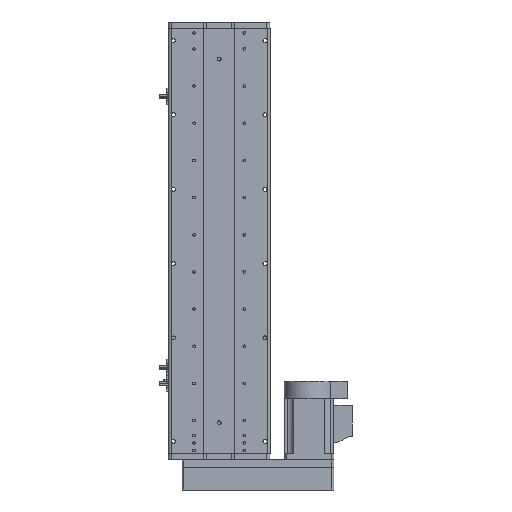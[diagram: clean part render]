
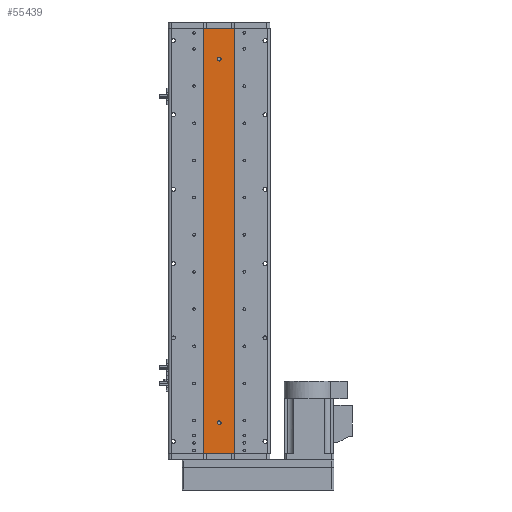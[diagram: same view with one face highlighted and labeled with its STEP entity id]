
A CAD part, front view. The second image highlights one B-rep face of the part: STEP entity #55439.
In plain terms, the highlighted planar face has unit normal (0, -1, 0).
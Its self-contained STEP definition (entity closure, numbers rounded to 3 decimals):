
#672 = LINE ( 'NONE', #52717, #35709 ) ;
#677 = EDGE_CURVE ( 'NONE', #53809, #31405, #54581, .T. ) ;
#2646 = DIRECTION ( 'NONE',  ( 0., 0., -1. ) ) ;
#2668 = ORIENTED_EDGE ( 'NONE', *, *, #677, .T. ) ;
#6071 = AXIS2_PLACEMENT_3D ( 'NONE', #16847, #48695, #21462 ) ;
#6673 = CARTESIAN_POINT ( 'NONE',  ( 0., 1., 296.5 ) ) ;
#6714 = CARTESIAN_POINT ( 'NONE',  ( 0., 1., 293.5 ) ) ;
#7720 = DIRECTION ( 'NONE',  ( 0., 0., -1. ) ) ;
#8252 = CARTESIAN_POINT ( 'NONE',  ( 0., 1., -293.5 ) ) ;
#9055 = EDGE_LOOP ( 'NONE', ( #40867, #16195 ) ) ;
#9064 = CARTESIAN_POINT ( 'NONE',  ( -25., 1., 343.5 ) ) ;
#9344 = EDGE_CURVE ( 'NONE', #16473, #53809, #672, .T. ) ;
#10515 = CARTESIAN_POINT ( 'NONE',  ( 25., 1., 343.5 ) ) ;
#10939 = CARTESIAN_POINT ( 'NONE',  ( 25., 1., -343.5 ) ) ;
#11179 = ORIENTED_EDGE ( 'NONE', *, *, #37240, .F. ) ;
#11285 = DIRECTION ( 'NONE',  ( 0., 0., -1. ) ) ;
#11422 = EDGE_CURVE ( 'NONE', #16473, #32055, #26226, .T. ) ;
#12256 = PLANE ( 'NONE',  #6071 ) ;
#12545 = CIRCLE ( 'NONE', #22142, 3. ) ;
#12674 = VECTOR ( 'NONE', #15127, 1000. ) ;
#12843 = DIRECTION ( 'NONE',  ( 0., 0., -1. ) ) ;
#12874 = CARTESIAN_POINT ( 'NONE',  ( 0., 1., -290.5 ) ) ;
#13016 = CARTESIAN_POINT ( 'NONE',  ( -25., 1., -343.5 ) ) ;
#14371 = ORIENTED_EDGE ( 'NONE', *, *, #44771, .F. ) ;
#15127 = DIRECTION ( 'NONE',  ( 1., 0., 0. ) ) ;
#15579 = CARTESIAN_POINT ( 'NONE',  ( 0., 1., 293.5 ) ) ;
#16195 = ORIENTED_EDGE ( 'NONE', *, *, #27050, .F. ) ;
#16473 = VERTEX_POINT ( 'NONE', #9064 ) ;
#16741 = DIRECTION ( 'NONE',  ( 0., -1., 0. ) ) ;
#16847 = CARTESIAN_POINT ( 'NONE',  ( 25., 1., 343.5 ) ) ;
#18208 = CARTESIAN_POINT ( 'NONE',  ( 0., 1., 290.5 ) ) ;
#19336 = EDGE_LOOP ( 'NONE', ( #14371, #29644 ) ) ;
#20194 = DIRECTION ( 'NONE',  ( 0., 0., -1. ) ) ;
#21039 = FACE_BOUND ( 'NONE', #19336, .T. ) ;
#21462 = DIRECTION ( 'NONE',  ( 0., 0., 1. ) ) ;
#21702 = CARTESIAN_POINT ( 'NONE',  ( 25., 1., 343.5 ) ) ;
#22142 = AXIS2_PLACEMENT_3D ( 'NONE', #15579, #47431, #20194 ) ;
#22249 = CARTESIAN_POINT ( 'NONE',  ( 25., 1., 343.5 ) ) ;
#22655 = EDGE_LOOP ( 'NONE', ( #2668, #11179, #56310, #52464 ) ) ;
#24651 = VERTEX_POINT ( 'NONE', #53731 ) ;
#25598 = AXIS2_PLACEMENT_3D ( 'NONE', #44012, #16741, #48579 ) ;
#26226 = LINE ( 'NONE', #10515, #12674 ) ;
#27050 = EDGE_CURVE ( 'NONE', #48070, #24651, #46078, .T. ) ;
#28393 = CIRCLE ( 'NONE', #53643, 3. ) ;
#28501 = VECTOR ( 'NONE', #7720, 1000. ) ;
#29644 = ORIENTED_EDGE ( 'NONE', *, *, #54146, .F. ) ;
#31405 = VERTEX_POINT ( 'NONE', #10939 ) ;
#32055 = VERTEX_POINT ( 'NONE', #22249 ) ;
#32946 = EDGE_CURVE ( 'NONE', #24651, #48070, #33174, .T. ) ;
#33099 = FACE_BOUND ( 'NONE', #9055, .T. ) ;
#33174 = CIRCLE ( 'NONE', #25598, 3. ) ;
#35709 = VECTOR ( 'NONE', #2646, 1000. ) ;
#36623 = CARTESIAN_POINT ( 'NONE',  ( 25., 1., -343.5 ) ) ;
#37240 = EDGE_CURVE ( 'NONE', #32055, #31405, #40627, .T. ) ;
#37597 = VERTEX_POINT ( 'NONE', #6673 ) ;
#38569 = DIRECTION ( 'NONE',  ( 0., -1., 0. ) ) ;
#40120 = DIRECTION ( 'NONE',  ( 0., -1., 0. ) ) ;
#40627 = LINE ( 'NONE', #21702, #28501 ) ;
#40867 = ORIENTED_EDGE ( 'NONE', *, *, #32946, .F. ) ;
#41218 = DIRECTION ( 'NONE',  ( 1., 0., 0. ) ) ;
#42530 = VECTOR ( 'NONE', #41218, 1000. ) ;
#44012 = CARTESIAN_POINT ( 'NONE',  ( 0., 1., -293.5 ) ) ;
#44028 = AXIS2_PLACEMENT_3D ( 'NONE', #8252, #40120, #12843 ) ;
#44771 = EDGE_CURVE ( 'NONE', #51115, #37597, #28393, .T. ) ;
#46078 = CIRCLE ( 'NONE', #44028, 3. ) ;
#47431 = DIRECTION ( 'NONE',  ( 0., -1., 0. ) ) ;
#48070 = VERTEX_POINT ( 'NONE', #12874 ) ;
#48579 = DIRECTION ( 'NONE',  ( 0., 0., -1. ) ) ;
#48695 = DIRECTION ( 'NONE',  ( 0., 1., 0. ) ) ;
#51115 = VERTEX_POINT ( 'NONE', #18208 ) ;
#52464 = ORIENTED_EDGE ( 'NONE', *, *, #9344, .T. ) ;
#52717 = CARTESIAN_POINT ( 'NONE',  ( -25., 1., 343.5 ) ) ;
#53643 = AXIS2_PLACEMENT_3D ( 'NONE', #6714, #38569, #11285 ) ;
#53731 = CARTESIAN_POINT ( 'NONE',  ( 0., 1., -296.5 ) ) ;
#53809 = VERTEX_POINT ( 'NONE', #13016 ) ;
#54146 = EDGE_CURVE ( 'NONE', #37597, #51115, #12545, .T. ) ;
#54581 = LINE ( 'NONE', #36623, #42530 ) ;
#55439 = ADVANCED_FACE ( 'NONE', ( #33099, #21039, #57262 ), #12256, .F. ) ;
#56310 = ORIENTED_EDGE ( 'NONE', *, *, #11422, .F. ) ;
#57262 = FACE_OUTER_BOUND ( 'NONE', #22655, .T. ) ;
